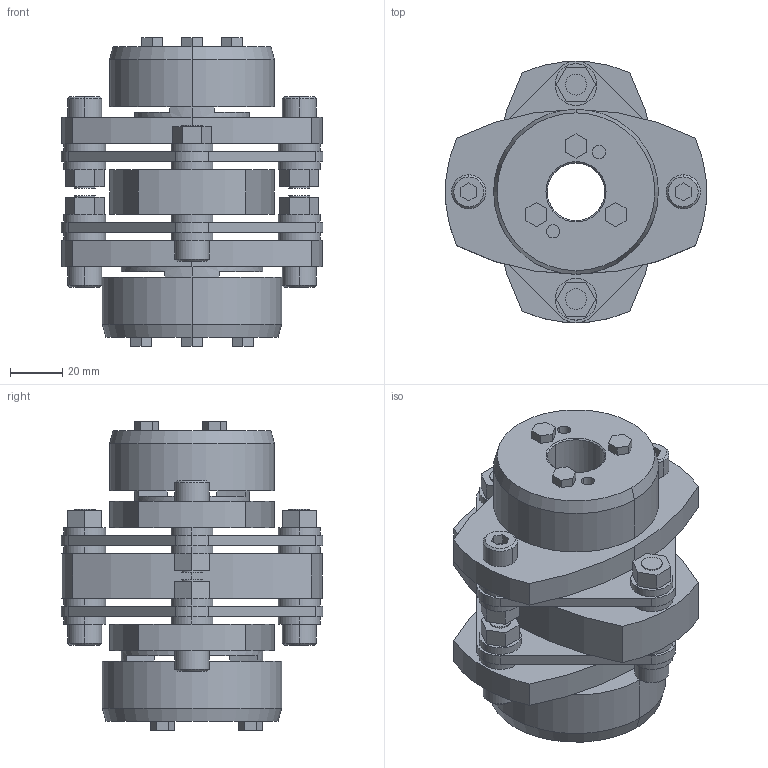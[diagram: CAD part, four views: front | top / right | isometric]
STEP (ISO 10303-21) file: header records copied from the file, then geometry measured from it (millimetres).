
FILE_DESCRIPTION((''),'2;1');
FILE_NAME('LCD-100T7-22×32.stp','2011-09-09T08:37:18',(''),(''),'AutoCAD STEP 2000i','AutoCAD 2000i',', , ');
FILE_SCHEMA(('CONFIG_CONTROL_DESIGN'));
Length unit declared in the file: millimetre
Products named in the file (7): LCD-100T7-22×30; 忣兜1; LC100T7-T030; LC100T7-T025; LC100T7-T022-1; LC100T7-T022; LCD100-ITA
Assembly tree (6 placements, depth 2):
  LCD-100T7-22×30
    忣兜1
    LC100T7-T030
    LC100T7-T025
    LC100T7-T022-1
    LC100T7-T022
    LCD100-ITA
Bounding box: 100 x 99.93 x 118 mm (x, y, z)
Volume: 354463.7 mm3; surface area: 90180.7 mm2
Topology: 1 solids, 1 shells, 320 faces, 780 edges, 512 vertices
Faces by surface type: plane 176, cylinder 120, cone 24
Entity records: 9663 total; most frequent: DIRECTION 1714, CARTESIAN_POINT 1619, ORIENTED_EDGE 1560, EDGE_CURVE 780, AXIS2_PLACEMENT_3D 607, VERTEX_POINT 512, VECTOR 500, LINE 500
